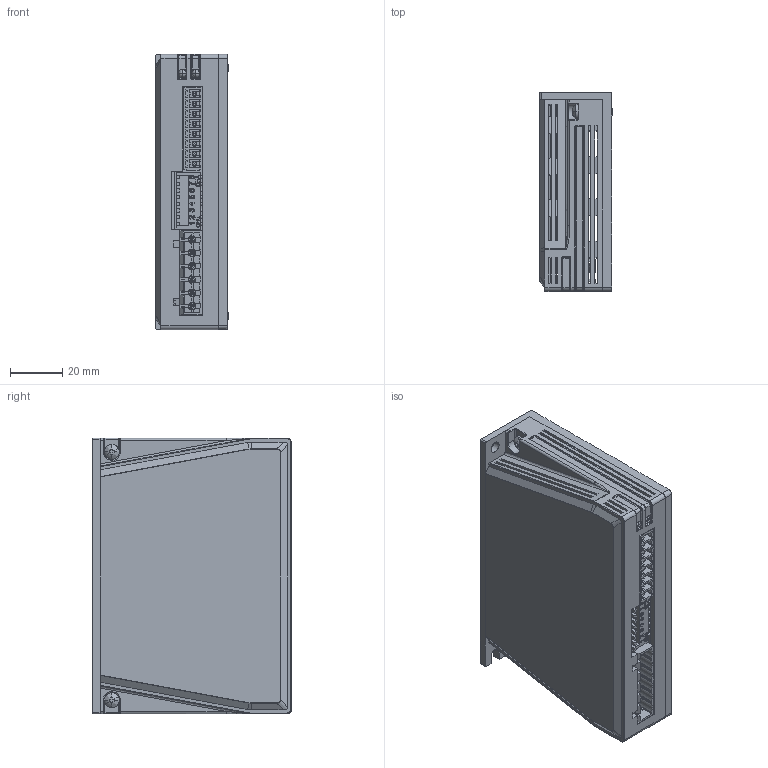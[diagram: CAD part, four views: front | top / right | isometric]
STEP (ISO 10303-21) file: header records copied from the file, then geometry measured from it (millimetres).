
FILE_DESCRIPTION(/* description */ (''),/* implementation_level */ '2;1');
FILE_NAME(/* name */ 'DP3L1-565-官网图',/* time_stamp */ '2023-02-02T15:39:14+08:00',/* author */ (''),/* organization */ (''),/* preprocessor_version */ 'ST-DEVELOPER v15',/* originating_system */ '',/* authorisation */ '');
FILE_SCHEMA (('AUTOMOTIVE_DESIGN'));
Products named in the file (1): Document
Bounding box: 27.6 x 75.8 x 105 mm (x, y, z)
Surface area: 56219.6 mm2 (no closed solid volume)
Topology: 0 solids, 3239 shells, 3239 faces, 18580 edges, 18572 vertices
Faces by surface type: plane 2822, bspline 417
Entity records: 174720 total; most frequent: CARTESIAN_POINT 73548, ORIENTED_EDGE 18575, EDGE_CURVE 18575, VERTEX_POINT 18575, B_SPLINE_CURVE_WITH_KNOTS 17139, EDGE_LOOP 3428, PRESENTATION_LAYER_ASSIGNMENT 3239, SHELL_BASED_SURFACE_MODEL 3239
